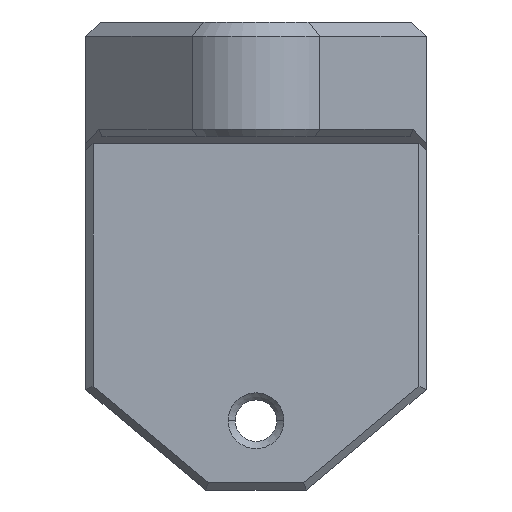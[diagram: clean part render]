
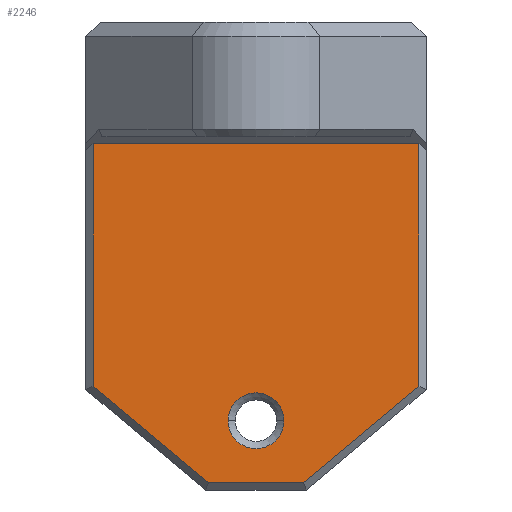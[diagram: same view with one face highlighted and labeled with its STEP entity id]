
A CAD part, front view. The second image highlights one B-rep face of the part: STEP entity #2246.
In plain terms, the highlighted planar face has unit normal (0, -1, 0).
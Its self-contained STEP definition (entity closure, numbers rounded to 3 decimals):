
#510=CARTESIAN_POINT('Vertex',(1.95,-10.8,-27.832)) ;
#513=CARTESIAN_POINT('Axis2P3D Location',(0.,-10.8,-27.832)) ;
#517=CARTESIAN_POINT('Vertex',(-1.95,-10.8,-27.832)) ;
#537=CARTESIAN_POINT('Axis2P3D Location',(0.,-10.8,-27.832)) ;
#2081=CARTESIAN_POINT('Vertex',(11.375,-10.8,-8.5)) ;
#2111=CARTESIAN_POINT('Vertex',(-11.375,-10.8,-8.5)) ;
#2114=CARTESIAN_POINT('Line Origine',(0.,-10.8,-8.5)) ;
#2196=CARTESIAN_POINT('Axis2P3D Location',(0.,-10.8,0.)) ;
#2201=CARTESIAN_POINT('Line Origine',(-11.375,-10.8,-16.965)) ;
#2205=CARTESIAN_POINT('Vertex',(-11.375,-10.8,-25.43)) ;
#2208=CARTESIAN_POINT('Line Origine',(-7.347,-10.8,-28.797)) ;
#2212=CARTESIAN_POINT('Vertex',(-3.319,-10.8,-32.163)) ;
#2215=CARTESIAN_POINT('Line Origine',(0.,-10.8,-32.163)) ;
#2219=CARTESIAN_POINT('Vertex',(3.319,-10.8,-32.163)) ;
#2222=CARTESIAN_POINT('Line Origine',(7.347,-10.8,-28.797)) ;
#2226=CARTESIAN_POINT('Vertex',(11.375,-10.8,-25.43)) ;
#2229=CARTESIAN_POINT('Line Origine',(11.375,-10.8,-16.965)) ;
#514=DIRECTION('Axis2P3D Direction',(0.,-1.,0.)) ;
#538=DIRECTION('Axis2P3D Direction',(-0.,-1.,-0.)) ;
#2115=DIRECTION('Vector Direction',(1.,0.,0.)) ;
#2197=DIRECTION('Axis2P3D Direction',(0.,-1.,0.)) ;
#2198=DIRECTION('Axis2P3D XDirection',(0.,0.,-1.)) ;
#2202=DIRECTION('Vector Direction',(0.,0.,-1.)) ;
#2209=DIRECTION('Vector Direction',(0.767,0.,-0.641)) ;
#2216=DIRECTION('Vector Direction',(1.,0.,0.)) ;
#2223=DIRECTION('Vector Direction',(-0.767,0.,-0.641)) ;
#2230=DIRECTION('Vector Direction',(0.,0.,-1.)) ;
#515=AXIS2_PLACEMENT_3D('Circle Axis2P3D',#513,#514,$) ;
#539=AXIS2_PLACEMENT_3D('Circle Axis2P3D',#537,#538,$) ;
#2199=AXIS2_PLACEMENT_3D('Plane Axis2P3D',#2196,#2197,#2198) ;
#2235=ORIENTED_EDGE('',*,*,#2118,.F.) ;
#2236=ORIENTED_EDGE('',*,*,#2207,.T.) ;
#2237=ORIENTED_EDGE('',*,*,#2214,.T.) ;
#2238=ORIENTED_EDGE('',*,*,#2221,.T.) ;
#2239=ORIENTED_EDGE('',*,*,#2228,.T.) ;
#2240=ORIENTED_EDGE('',*,*,#2233,.T.) ;
#2243=ORIENTED_EDGE('',*,*,#541,.F.) ;
#2244=ORIENTED_EDGE('',*,*,#519,.F.) ;
#2245=FACE_BOUND('',#2242,.T.) ;
#2116=VECTOR('Line Direction',#2115,1.) ;
#2203=VECTOR('Line Direction',#2202,1.) ;
#2210=VECTOR('Line Direction',#2209,1.) ;
#2217=VECTOR('Line Direction',#2216,1.) ;
#2224=VECTOR('Line Direction',#2223,1.) ;
#2231=VECTOR('Line Direction',#2230,1.) ;
#2246=ADVANCED_FACE('PartBody',(#2241,#2245),#2200,.T.) ;
#516=CIRCLE('generated circle',#515,1.95) ;
#540=CIRCLE('generated circle',#539,1.95) ;
#519=EDGE_CURVE('',#511,#518,#516,.T.) ;
#541=EDGE_CURVE('',#518,#511,#540,.T.) ;
#2118=EDGE_CURVE('',#2112,#2082,#2117,.T.) ;
#2207=EDGE_CURVE('',#2112,#2206,#2204,.T.) ;
#2214=EDGE_CURVE('',#2206,#2213,#2211,.T.) ;
#2221=EDGE_CURVE('',#2213,#2220,#2218,.T.) ;
#2228=EDGE_CURVE('',#2220,#2227,#2225,.F.) ;
#2233=EDGE_CURVE('',#2227,#2082,#2232,.F.) ;
#2234=EDGE_LOOP('',(#2235,#2236,#2237,#2238,#2239,#2240)) ;
#2242=EDGE_LOOP('',(#2243,#2244)) ;
#2241=FACE_OUTER_BOUND('',#2234,.T.) ;
#2117=LINE('Line',#2114,#2116) ;
#2204=LINE('Line',#2201,#2203) ;
#2211=LINE('Line',#2208,#2210) ;
#2218=LINE('Line',#2215,#2217) ;
#2225=LINE('Line',#2222,#2224) ;
#2232=LINE('Line',#2229,#2231) ;
#2200=PLANE('Plane',#2199) ;
#511=VERTEX_POINT('',#510) ;
#518=VERTEX_POINT('',#517) ;
#2082=VERTEX_POINT('',#2081) ;
#2112=VERTEX_POINT('',#2111) ;
#2206=VERTEX_POINT('',#2205) ;
#2213=VERTEX_POINT('',#2212) ;
#2220=VERTEX_POINT('',#2219) ;
#2227=VERTEX_POINT('',#2226) ;
